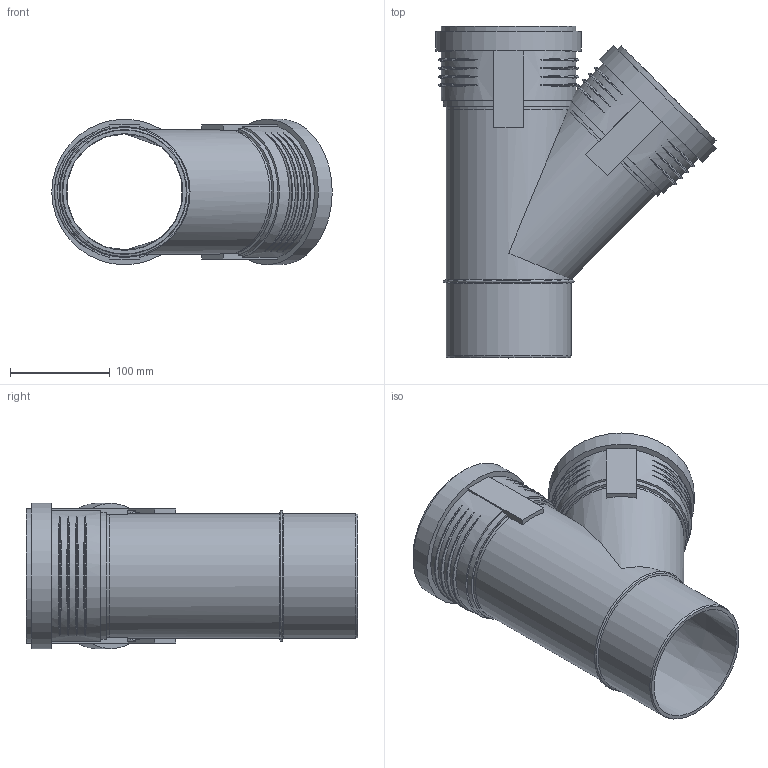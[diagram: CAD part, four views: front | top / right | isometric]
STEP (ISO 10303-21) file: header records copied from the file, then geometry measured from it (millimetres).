
FILE_DESCRIPTION(/* description */ (''),/* implementation_level */ '2;1');
FILE_NAME(/* name */ 'Z:\Geberit\Export\NewStep\390636.stp',/* time_stamp */ '2014-04-02T08:16:00+02:00',/* author */ ('ML'),/* organization */ (''),/* preprocessor_version */ 'ST-DEVELOPER v15.2',/* originating_system */ 'Autodesk Inventor 2014',/* authorisation */ '');
FILE_SCHEMA (('AUTOMOTIVE_DESIGN { 1 0 10303 214 3 1 1 }'));
Length unit declared in the file: millimetre
Products named in the file (4): 861603; 861625; 861625_1; 390636
Bounding box: 281.01 x 332.5 x 145.9 mm (x, y, z)
Volume: 828862.8 mm3; surface area: 410466.1 mm2
Topology: 3 solids, 3 shells, 130 faces, 322 edges, 224 vertices
Faces by surface type: torus 50, plane 37, cylinder 33, cone 10
Full cylindrical faces by diameter (mm): 116.8 x1, 117 x2, 125.2 x4, 126.4 x4, 134.6 x2, 137.7 x2, 145.9 x2
Entity records: 5408 total; most frequent: CARTESIAN_POINT 2314, ORIENTED_EDGE 578, DIRECTION 571, EDGE_CURVE 289, AXIS2_PLACEMENT_3D 249, VERTEX_POINT 216, EDGE_LOOP 189, ADVANCED_FACE 130
